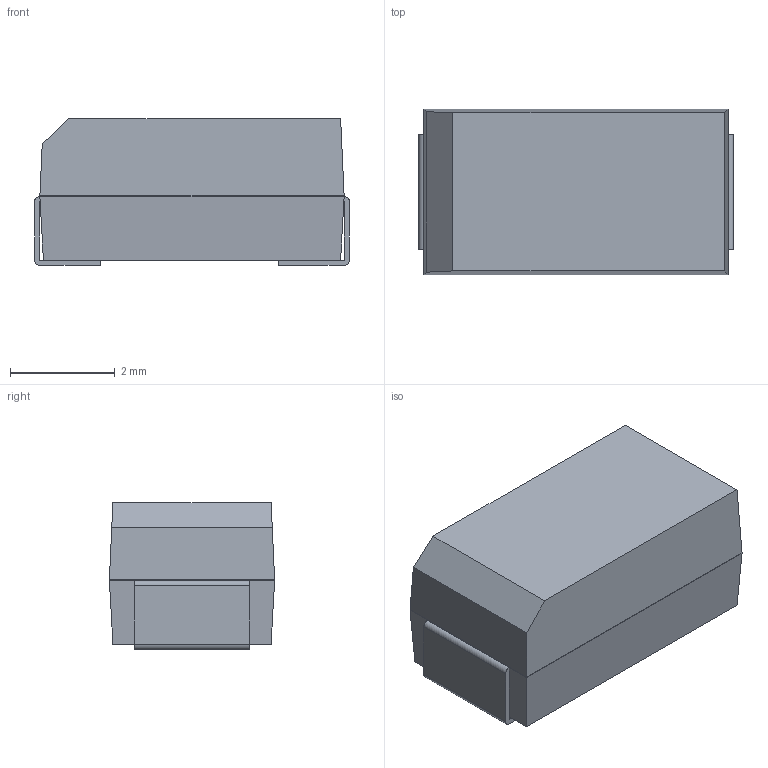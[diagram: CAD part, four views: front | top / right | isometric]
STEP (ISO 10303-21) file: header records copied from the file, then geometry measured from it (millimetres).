
FILE_DESCRIPTION(('FreeCAD Model'),'2;1');
FILE_NAME('/var/www/3D/0T/1640368.2.2.stp','2020-04-10T14:21:46',( 'Author'),(''),'Open CASCADE STEP processor 6.9','FreeCAD','Unknown' );
FILE_SCHEMA(('AUTOMOTIVE_DESIGN { 1 0 10303 214 1 1 1 1 }'));
Length unit declared in the file: millimetre
Products named in the file (4): ASSEMBLY; Body; FilletPin1; FilletPin2
Assembly tree (3 placements, depth 2):
  ASSEMBLY
    Body
    FilletPin1
    FilletPin2
Bounding box: 6 x 3.15 x 2.8 mm (x, y, z)
Volume: 48.9 mm3; surface area: 114.5 mm2
Topology: 3 solids, 3 shells, 39 faces, 91 edges, 58 vertices
Faces by surface type: plane 35, cylinder 4
Entity records: 2372 total; most frequent: CARTESIAN_POINT 402, DIRECTION 359, LINE 253, VECTOR 253, ORIENTED_EDGE 182, PCURVE 182, DEFINITIONAL_REPRESENTATION 182, EDGE_CURVE 91
